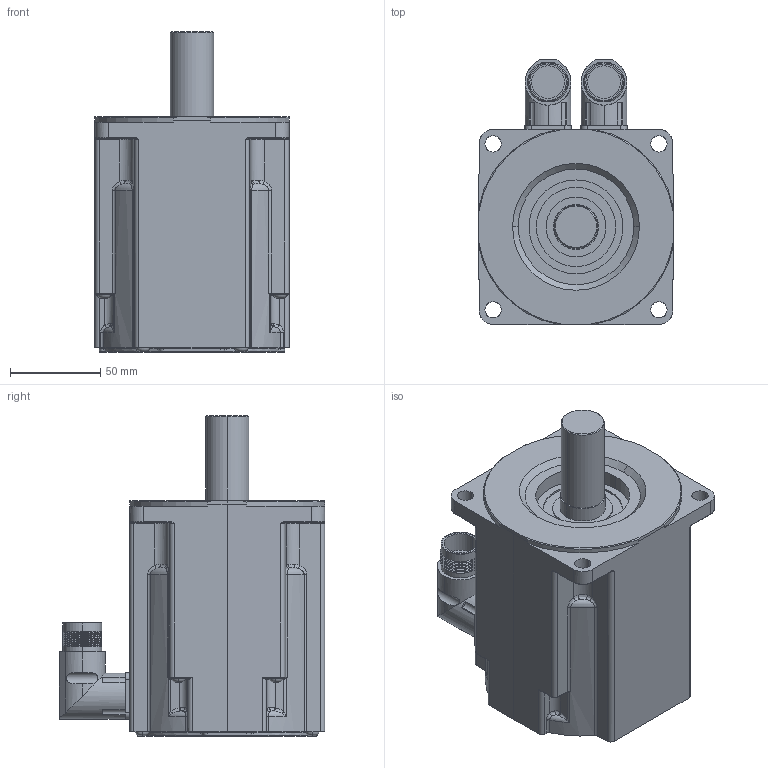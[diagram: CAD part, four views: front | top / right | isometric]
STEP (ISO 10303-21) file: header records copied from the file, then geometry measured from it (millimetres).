
FILE_DESCRIPTION (( 'STEP AP214' ), '1' );
FILE_NAME ('MR7751-Ux-Nxx-G01-A0D-M0-P0.stp', '2009-04-08T13:46:00', ( 'sysAdmin' ), ( 'SolidWorks' ), 'SwSTEP 2.0', 'SolidWorks 2009', '' );
FILE_SCHEMA (( 'AUTOMOTIVE_DESIGN' ));
Length unit declared in the file: millimetre
Products named in the file (1): MR7751-Ux-Nxx-G01-A0D-M0-P0
Bounding box: 108 x 147 x 177.5 mm (x, y, z)
Volume: 1350628.3 mm3; surface area: 93690.6 mm2
Topology: 1 solids, 1 shells, 601 faces, 1466 edges, 872 vertices
Faces by surface type: cylinder 176, bspline 136, plane 129, cone 108, torus 52
Entity records: 27907 total; most frequent: CARTESIAN_POINT 8804, ORIENTED_EDGE 2892, DIRECTION 2518, EDGE_CURVE 1446, AXIS2_PLACEMENT_3D 1070, VERTEX_POINT 872, EDGE_LOOP 634, CIRCLE 604
